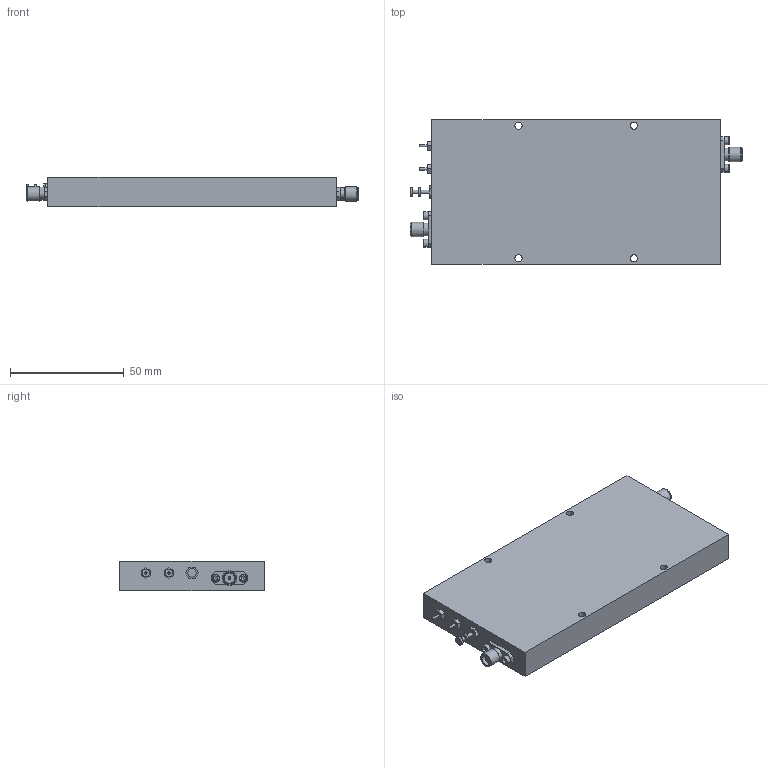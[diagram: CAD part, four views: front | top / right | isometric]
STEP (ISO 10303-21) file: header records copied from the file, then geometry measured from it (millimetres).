
FILE_DESCRIPTION((''),'2;1');
FILE_NAME('\\SERPENTOR\Engineering\ENG\Models\TAxxxx\TA1158 5W 2300-2500 MHz Class A\Inventor\142.stp','2015-08-24T15:58:37',('dcampbell'),(''),'Autodesk Inventor 2013','Autodesk Inventor 2013','');
FILE_SCHEMA(('AUTOMOTIVE_DESIGN { 1 0 10303 214 1 1 1 1 }'));
Length unit declared in the file: inch
Products named in the file (7): 142; 410-003; 410-003_1; 102-001; 470-004; Hexagon Socket Head Cap Screw - Inch No. 2 - 56 UNC - 3/16
Assembly tree (10 placements, depth 2):
  142
    142
    410-003
    410-003_1
    102-001  x2
    470-004
    Hexagon Socket Head Cap Screw - Inch No. 2 - 56 UNC - 3/16  x4
Bounding box: 146.18 x 63.5 x 13.03 mm (x, y, z)
Volume: 105599.9 mm3; surface area: 23270.7 mm2
Topology: 10 solids, 10 shells, 206 faces, 409 edges, 268 vertices
Faces by surface type: plane 127, cylinder 57, cone 14, torus 8
Full cylindrical faces by diameter (mm): 0.737 x2, 1.016 x4, 1.245 x2, 1.27 x5, 1.295 x2, 1.651 x2, 1.905 x1, 2.184 x4, 2.286 x2, 2.54 x4, 2.591 x4, 2.743 x3, 3.175 x4, 3.429 x2, 3.556 x4, 3.683 x2, 4.597 x2, 5.08 x2, 5.486 x4, 6.35 x2
Entity records: 3568 total; most frequent: DIRECTION 614, CARTESIAN_POINT 552, ORIENTED_EDGE 422, AXIS2_PLACEMENT_3D 253, EDGE_LOOP 244, EDGE_CURVE 211, VERTEX_POINT 173, FACE_OUTER_BOUND 139
